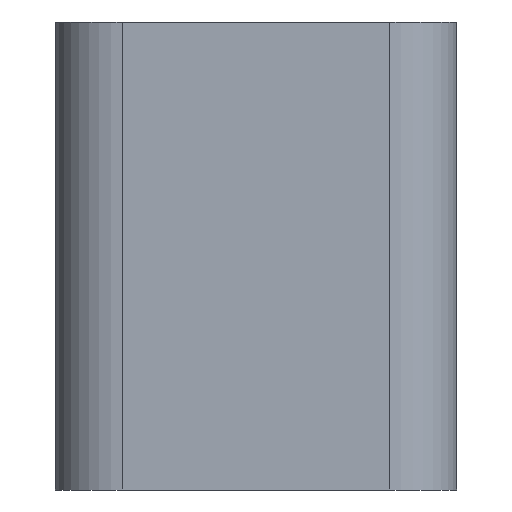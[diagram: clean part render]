
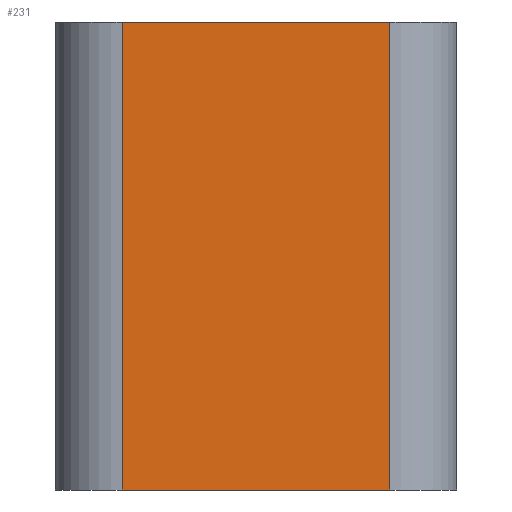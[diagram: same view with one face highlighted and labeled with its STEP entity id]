
A CAD part, front view. The second image highlights one B-rep face of the part: STEP entity #231.
In plain terms, the highlighted planar face has unit normal (0, -1, 0).
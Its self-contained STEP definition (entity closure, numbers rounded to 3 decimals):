
#5 = DIRECTION ( 'NONE',  ( 0., 0., 1. ) ) ;
#9 = CARTESIAN_POINT ( 'NONE',  ( -67.4, -15.785, 7. ) ) ;
#14 = DIRECTION ( 'NONE',  ( 0., 0., -1. ) ) ;
#128 = EDGE_LOOP ( 'NONE', ( #139, #235, #291, #141 ) ) ;
#139 = ORIENTED_EDGE ( 'NONE', *, *, #210, .F. ) ;
#141 = ORIENTED_EDGE ( 'NONE', *, *, #257, .T. ) ;
#163 = CARTESIAN_POINT ( 'NONE',  ( -72.4, -15.785, 0. ) ) ;
#174 = CARTESIAN_POINT ( 'NONE',  ( -72.4, -15.785, 7. ) ) ;
#204 = EDGE_CURVE ( 'NONE', #389, #429, #555, .T. ) ;
#210 = EDGE_CURVE ( 'NONE', #290, #302, #583, .T. ) ;
#212 = CARTESIAN_POINT ( 'NONE',  ( -72.4, -15.785, 7. ) ) ;
#216 = DIRECTION ( 'NONE',  ( 1., 0., 0. ) ) ;
#231 = ADVANCED_FACE ( 'NONE', ( #503 ), #233, .F. ) ;
#233 = PLANE ( 'NONE',  #469 ) ;
#235 = ORIENTED_EDGE ( 'NONE', *, *, #250, .T. ) ;
#250 = EDGE_CURVE ( 'NONE', #290, #389, #506, .T. ) ;
#253 = CARTESIAN_POINT ( 'NONE',  ( -68.4, -15.785, 7. ) ) ;
#257 = EDGE_CURVE ( 'NONE', #429, #302, #563, .T. ) ;
#265 = CARTESIAN_POINT ( 'NONE',  ( -67.4, -15.785, 0. ) ) ;
#268 = CARTESIAN_POINT ( 'NONE',  ( -68.4, -15.785, 0. ) ) ;
#290 = VERTEX_POINT ( 'NONE', #212 ) ;
#291 = ORIENTED_EDGE ( 'NONE', *, *, #204, .T. ) ;
#302 = VERTEX_POINT ( 'NONE', #253 ) ;
#305 = DIRECTION ( 'NONE',  ( 1., 0., 0. ) ) ;
#313 = VECTOR ( 'NONE', #305, 1000. ) ;
#379 = CARTESIAN_POINT ( 'NONE',  ( -67.4, -15.785, 7. ) ) ;
#389 = VERTEX_POINT ( 'NONE', #163 ) ;
#405 = DIRECTION ( 'NONE',  ( -1., 0., 0. ) ) ;
#406 = CARTESIAN_POINT ( 'NONE',  ( -68.4, -15.785, 7. ) ) ;
#429 = VERTEX_POINT ( 'NONE', #268 ) ;
#453 = DIRECTION ( 'NONE',  ( 0., 1., 0. ) ) ;
#469 = AXIS2_PLACEMENT_3D ( 'NONE', #9, #453, #405 ) ;
#480 = VECTOR ( 'NONE', #14, 1000. ) ;
#502 = VECTOR ( 'NONE', #5, 1000. ) ;
#503 = FACE_OUTER_BOUND ( 'NONE', #128, .T. ) ;
#506 = LINE ( 'NONE', #174, #480 ) ;
#555 = LINE ( 'NONE', #265, #577 ) ;
#563 = LINE ( 'NONE', #406, #502 ) ;
#577 = VECTOR ( 'NONE', #216, 1000. ) ;
#583 = LINE ( 'NONE', #379, #313 ) ;
